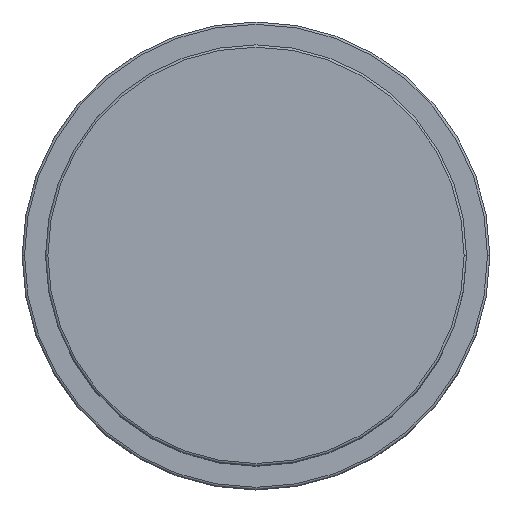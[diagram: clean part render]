
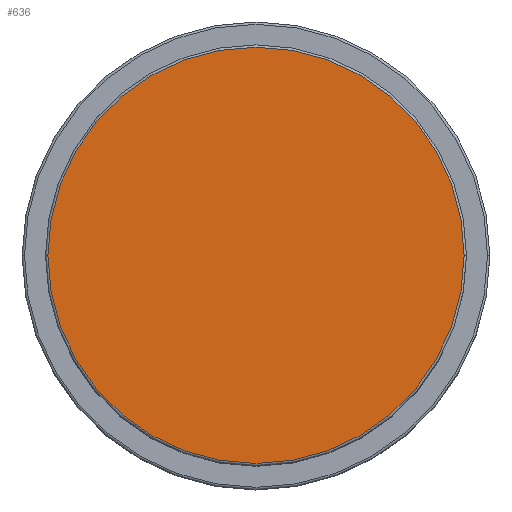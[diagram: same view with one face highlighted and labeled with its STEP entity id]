
A CAD part, top view. The second image highlights one B-rep face of the part: STEP entity #636.
In plain terms, the highlighted planar face has unit normal (0, 0, 1).
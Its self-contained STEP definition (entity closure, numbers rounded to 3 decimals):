
#1 = EDGE_CURVE ( 'NONE', #1574, #264, #151, .T. ) ;
#4 = ORIENTED_EDGE ( 'NONE', *, *, #390, .T. ) ;
#40 = CARTESIAN_POINT ( 'NONE',  ( 0., 0., 82. ) ) ;
#42 = EDGE_LOOP ( 'NONE', ( #841, #4 ) ) ;
#90 = DIRECTION ( 'NONE',  ( 1., 0., 0. ) ) ;
#151 = CIRCLE ( 'NONE', #609, 44.5 ) ;
#170 = DIRECTION ( 'NONE',  ( 1., 0., 0. ) ) ;
#224 = PLANE ( 'NONE',  #425 ) ;
#264 = VERTEX_POINT ( 'NONE', #795 ) ;
#365 = CARTESIAN_POINT ( 'NONE',  ( 0., 0., 82. ) ) ;
#390 = EDGE_CURVE ( 'NONE', #264, #1574, #1106, .T. ) ;
#425 = AXIS2_PLACEMENT_3D ( 'NONE', #365, #1610, #90 ) ;
#609 = AXIS2_PLACEMENT_3D ( 'NONE', #615, #994, #754 ) ;
#615 = CARTESIAN_POINT ( 'NONE',  ( 0., 0., 82. ) ) ;
#636 = ADVANCED_FACE ( 'NONE', ( #1547 ), #224, .T. ) ;
#754 = DIRECTION ( 'NONE',  ( 1., 0., 0. ) ) ;
#795 = CARTESIAN_POINT ( 'NONE',  ( -44.5, 0., 82. ) ) ;
#841 = ORIENTED_EDGE ( 'NONE', *, *, #1, .T. ) ;
#958 = DIRECTION ( 'NONE',  ( 0., 0., 1. ) ) ;
#994 = DIRECTION ( 'NONE',  ( 0., 0., 1. ) ) ;
#1106 = CIRCLE ( 'NONE', #1111, 44.5 ) ;
#1111 = AXIS2_PLACEMENT_3D ( 'NONE', #40, #958, #170 ) ;
#1483 = CARTESIAN_POINT ( 'NONE',  ( 44.5, 0., 82. ) ) ;
#1547 = FACE_OUTER_BOUND ( 'NONE', #42, .T. ) ;
#1574 = VERTEX_POINT ( 'NONE', #1483 ) ;
#1610 = DIRECTION ( 'NONE',  ( 0., 0., 1. ) ) ;
